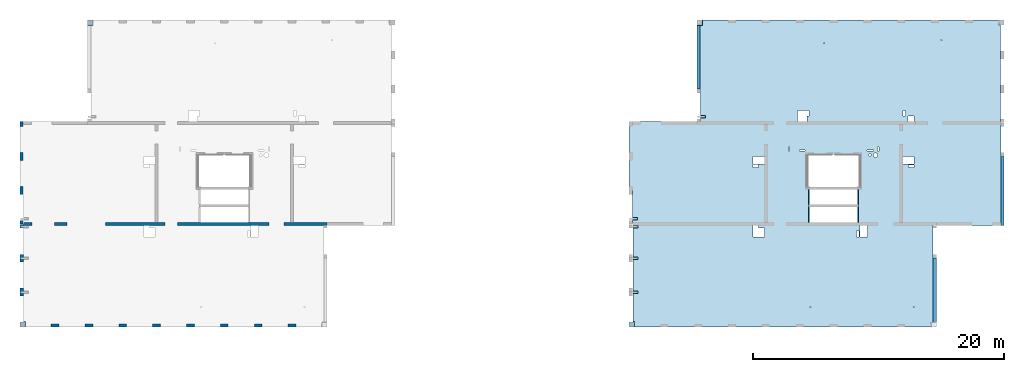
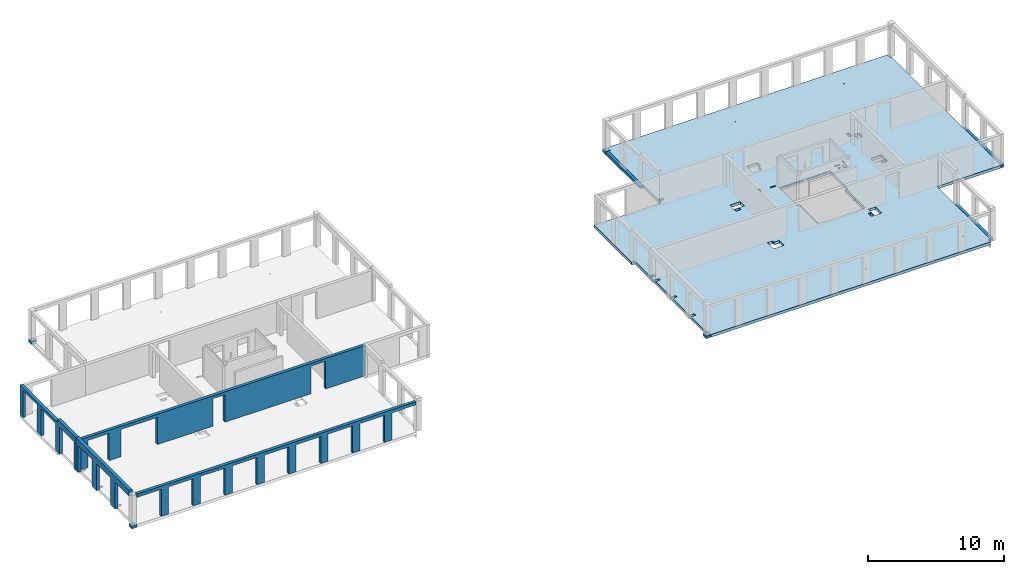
# One storey, part 2 of 11: 8 slabs, 4 walls, 55 openings.
"""IFC2X3 building model written with IfcOpenShell, lengths in millimetres."""

from ifc_helpers import new_model, entity, si_unit, converted_unit, derived_unit, direction, frame, frame_2d, origin, origin_2d_with_axis, place, context, subcontext, project, spatial, polyline, rectangle, circle, outline, extrude, material, layer, layer_set, layer_usage, type_object, element, save


model = new_model("IFC2X3")

# Units and contexts
model_context = context("Model", 3, precision=0.01, world=origin(), true_north=direction((6.12303176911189e-17, 1.0)))
body_context = subcontext(model_context, "Body", "Model", "MODEL_VIEW")
ifc_project = project(units=[si_unit("LENGTHUNIT", "METRE", prefix="MILLI"), si_unit("AREAUNIT", "SQUARE_METRE"), si_unit("VOLUMEUNIT", "CUBIC_METRE"), converted_unit("PLANEANGLEUNIT", "DEGREE", entity("IfcRatioMeasure", 0.0174532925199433), si_unit("PLANEANGLEUNIT", "RADIAN"), dimensions=[0, 0, 0, 0, 0, 0, 0]), si_unit("MASSUNIT", "GRAM", prefix="KILO"), derived_unit("MASSDENSITYUNIT", [(si_unit("MASSUNIT", "GRAM", prefix="KILO"), 1), (si_unit("LENGTHUNIT", "METRE"), -3)]), si_unit("TIMEUNIT", "SECOND"), si_unit("FREQUENCYUNIT", "HERTZ"), si_unit("THERMODYNAMICTEMPERATUREUNIT", "DEGREE_CELSIUS"), derived_unit("THERMALTRANSMITTANCEUNIT", [(si_unit("MASSUNIT", "GRAM", prefix="KILO"), 1), (si_unit("THERMODYNAMICTEMPERATUREUNIT", "KELVIN"), -1), (si_unit("TIMEUNIT", "SECOND"), -3)]), derived_unit("VOLUMETRICFLOWRATEUNIT", [(si_unit("LENGTHUNIT", "METRE"), 3), (si_unit("TIMEUNIT", "SECOND"), -1)]), si_unit("ELECTRICCURRENTUNIT", "AMPERE"), si_unit("ELECTRICVOLTAGEUNIT", "VOLT"), si_unit("POWERUNIT", "WATT"), si_unit("FORCEUNIT", "NEWTON", prefix="KILO"), si_unit("ILLUMINANCEUNIT", "LUX"), si_unit("LUMINOUSFLUXUNIT", "LUMEN"), si_unit("LUMINOUSINTENSITYUNIT", "CANDELA"), derived_unit("USERDEFINED", [(si_unit("MASSUNIT", "GRAM", prefix="KILO"), -1), (si_unit("LENGTHUNIT", "METRE"), -2), (si_unit("TIMEUNIT", "SECOND"), 3), (si_unit("LUMINOUSFLUXUNIT", "LUMEN"), 1)]), derived_unit("LINEARVELOCITYUNIT", [(si_unit("LENGTHUNIT", "METRE"), 1), (si_unit("TIMEUNIT", "SECOND"), -1)]), si_unit("PRESSUREUNIT", "PASCAL"), derived_unit("USERDEFINED", [(si_unit("LENGTHUNIT", "METRE"), -2), (si_unit("MASSUNIT", "GRAM", prefix="KILO"), 1), (si_unit("TIMEUNIT", "SECOND"), -2)])], contexts=[model_context])

# Site, building, storey
site_placement = place(None, origin())
site = spatial("IfcSite", under=ifc_project, at=site_placement, Name="Default", CompositionType="ELEMENT")
building_placement = place(site_placement, origin())
building = spatial("IfcBuilding", under=site, at=building_placement, Name="niet gebruiken", CompositionType="ELEMENT")
storey_placement = place(building_placement, frame((0.0, 0.0, 57150.0)))
storey = spatial("IfcBuildingStorey", under=building, at=storey_placement, Name="19 negentiende verdieping", CompositionType="ELEMENT", Elevation=57150.0)

# Slab, openings
ifc_material_1 = material(Name="NLRS_f2_beton ihwg")
ifc_layer_1 = layer(ifc_material_1, 250.0)
ifc_layer_set_1 = layer_set([ifc_layer_1], Name="Floor:NLRS_23.21_FL_beton ihwg d=250_gen")
ifc_layer_usage_1 = layer_usage(ifc_layer_set_1, "AXIS3", "POSITIVE", 0.0)
slab_1_placement = place(storey_placement, frame((75500.0, 28756.0, -340.0)))
slab_1 = element("IfcSlab", 1, at=slab_1_placement, inside=storey, material=ifc_layer_usage_1, Name="Floor:NLRS_23.21_FL_beton ihwg d=250_gen", ObjectType="Floor:NLRS_23.21_FL_beton ihwg d=250_gen", PredefinedType="FLOOR", context=body_context, shape_type="SweptSolid", body=[
    extrude(outline(polyline([(8995.0, 12250.0), (-14665.0, 12250.0), (-14665.0, 11840.0), (-14805.0, 11840.0), (-14805.0, 4060.0), (-14825.0, 4060.0), (-14825.0, -4150.0), (-9425.0, -4150.0), (-9425.0, -11890.0), (-9265.0, -11890.0), (-9265.0, -12250.0), (14395.0, -12250.0), (14395.0, -11820.0), (14535.0, -11820.0), (14535.0, -4040.0), (14555.0, -4040.0), (14555.0, -1350.0), (14825.0, -1350.0), (14825.0, 4150.0), (9155.0, 4150.0), (9155.0, 6750.0), (9425.0, 6750.0), (9425.0, 11820.0), (8995.0, 11820.0), (8995.0, 12250.0)])), frame((14825.0, 12250.0, 250.0), z_axis=(0.0, 0.0, -1.0), x_axis=(-1.0, 0.0, 0.0)), (0.0, 0.0, 1.0), 250.000000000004),
])
opening_1_placement = place(storey_placement, frame((75500.0, 28756.0, -340.0)))
element("IfcOpeningElement", 2, at=opening_1_placement, cuts=slab_1, ObjectType="Opening", context=body_context, shape_type="SweptSolid", body=[
    extrude(circle(Radius=37.5, at=frame_2d((-7875.0, -10650.0), x_axis=(1.0, 0.0))), frame((14825.0, 12250.0, 250.0), z_axis=(0.0, 0.0, -1.0), x_axis=(-1.0, 0.0, 0.0)), (0.0, 0.0, 1.0), 250.000000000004),
])
opening_2_placement = place(storey_placement, frame((75500.0, 28756.0, -340.0)))
element("IfcOpeningElement", 3, at=opening_2_placement, cuts=slab_1, ObjectType="Opening", context=body_context, shape_type="SweptSolid", body=[
    extrude(circle(Radius=37.5, at=frame_2d((-10075.0, 10650.0), x_axis=(1.0, 0.0))), frame((14825.0, 12250.0, 250.0), z_axis=(0.0, 0.0, -1.0), x_axis=(-1.0, 0.0, 0.0)), (0.0, 0.0, 1.0), 250.000000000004),
])
opening_3_placement = place(storey_placement, frame((75500.0, 28756.0, -340.0)))
element("IfcOpeningElement", 4, at=opening_3_placement, cuts=slab_1, ObjectType="Opening", context=body_context, shape_type="SweptSolid", body=[
    extrude(circle(Radius=37.5, at=frame_2d((-725.0, 10400.0), x_axis=(1.0, 0.0))), frame((14825.0, 12250.0, 250.0), z_axis=(0.0, 0.0, -1.0), x_axis=(-1.0, 0.0, 0.0)), (0.0, 0.0, 1.0), 250.000000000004),
])
opening_4_placement = place(storey_placement, frame((75500.0, 28756.0, -340.0)))
element("IfcOpeningElement", 5, at=opening_4_placement, cuts=slab_1, ObjectType="Opening", context=body_context, shape_type="SweptSolid", body=[
    extrude(circle(Radius=37.5, at=frame_2d((375.0, -10650.0), x_axis=(1.0, 0.0))), frame((14825.0, 12250.0, 250.0), z_axis=(0.0, 0.0, -1.0), x_axis=(-1.0, 0.0, 0.0)), (0.0, 0.0, 1.0), 250.000000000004),
])
opening_5_placement = place(slab_1_placement, origin())
element("IfcOpeningElement", 6, at=opening_5_placement, cuts=slab_1, ObjectType="Opening", context=body_context, shape_type="SweptSolid", body=[
    extrude(rectangle(XDim=109.999999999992, YDim=1220.0, at=origin_2d_with_axis()), frame((14344.9999671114, 10380.0, 210.0)), (0.0, 0.0, 1.0), 39.9999999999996),
])
opening_6_placement = place(slab_1_placement, origin())
element("IfcOpeningElement", 7, at=opening_6_placement, cuts=slab_1, ObjectType="Opening", context=body_context, shape_type="SweptSolid", body=[
    extrude(rectangle(XDim=109.999999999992, YDim=1220.0, at=origin_2d_with_axis()), frame((18254.9997832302, 10380.0, 210.0)), (0.0, 0.0, 1.0), 39.9999999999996),
])
opening_7_placement = place(slab_1_placement, origin())
element("IfcOpeningElement", 8, at=opening_7_placement, cuts=slab_1, ObjectType="Opening", context=body_context, shape_type="SweptSolid", body=[
    extrude(rectangle(XDim=109.999999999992, YDim=1220.0, at=origin_2d_with_axis()), frame((18255.0, 8960.0, 210.0)), (0.0, 0.0, 1.0), 39.9999999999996),
])
opening_8_placement = place(slab_1_placement, origin())
element("IfcOpeningElement", 9, at=opening_8_placement, cuts=slab_1, ObjectType="Opening", context=body_context, shape_type="SweptSolid", body=[
    extrude(rectangle(XDim=109.999999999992, YDim=1220.0, at=origin_2d_with_axis()), frame((14344.9997832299, 8960.0, 210.0)), (0.0, 0.0, 1.0), 39.9999999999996),
])
opening_9_placement = place(slab_1_placement, origin())
element("IfcOpeningElement", 10, at=opening_9_placement, cuts=slab_1, ObjectType="Opening", context=body_context, shape_type="SweptSolid", body=[
    extrude(rectangle(XDim=399.999999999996, YDim=199.999999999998, at=origin_2d_with_axis()), frame((5870.0, 16765.0, 220.0)), (0.0, 0.0, 1.0), 30.0000000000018),
])
opening_10_placement = place(slab_1_placement, origin())
element("IfcOpeningElement", 11, at=opening_10_placement, cuts=slab_1, ObjectType="Opening", context=body_context, shape_type="SweptSolid", body=[
    extrude(rectangle(XDim=400.000000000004, YDim=200.000000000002, at=origin_2d_with_axis()), frame((470.0, 8630.0, 220.0)), (0.0, 0.0, 1.0), 30.0000000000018),
])
opening_11_placement = place(slab_1_placement, origin())
element("IfcOpeningElement", 12, at=opening_11_placement, cuts=slab_1, ObjectType="Opening", context=body_context, shape_type="SweptSolid", body=[
    extrude(rectangle(XDim=200.000000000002, YDim=400.000000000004, at=origin_2d_with_axis()), frame((490.0, 8000.0, 220.0), z_axis=(0.0, 0.0, 1.0), x_axis=(0.0, -1.0, 0.0)), (0.0, 0.0, 1.0), 30.0000000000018),
])
opening_12_placement = place(slab_1_placement, origin())
element("IfcOpeningElement", 13, at=opening_12_placement, cuts=slab_1, ObjectType="Opening", context=body_context, shape_type="SweptSolid", body=[
    extrude(rectangle(XDim=200.000000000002, YDim=400.000000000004, at=origin_2d_with_axis()), frame((490.0, 5500.0, 220.0), z_axis=(0.0, 0.0, 1.0), x_axis=(0.0, -1.0, 0.0)), (0.0, 0.0, 1.0), 30.0000000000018),
])
opening_13_placement = place(slab_1_placement, origin())
element("IfcOpeningElement", 14, at=opening_13_placement, cuts=slab_1, ObjectType="Opening", context=body_context, shape_type="SweptSolid", body=[
    extrude(rectangle(XDim=200.000000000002, YDim=400.000000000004, at=origin_2d_with_axis()), frame((490.0, 2800.0, 220.0), z_axis=(0.0, 0.0, 1.0), x_axis=(0.0, -1.0, 0.0)), (0.0, 0.0, 1.0), 30.0000000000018),
])
opening_14_placement = place(slab_1_placement, origin())
element("IfcOpeningElement", 15, at=opening_14_placement, cuts=slab_1, ObjectType="Opening", context=body_context, shape_type="SweptSolid", body=[
    extrude(rectangle(XDim=900.000000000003, YDim=700.000000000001, at=origin_2d_with_axis()), frame((10325.0, 7550.0, 0.0), z_axis=(0.0, 0.0, 1.0), x_axis=(-1.0, 0.0, 0.0)), (0.0, 0.0, 1.0), 250.000000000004),
])
opening_15_placement = place(slab_1_placement, origin())
element("IfcOpeningElement", 16, at=opening_15_placement, cuts=slab_1, ObjectType="Opening", context=body_context, shape_type="SweptSolid", body=[
    extrude(rectangle(XDim=200.000000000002, YDim=450.000000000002, at=origin_2d_with_axis()), frame((10100.0, 8000.0, 0.0), z_axis=(0.0, 0.0, 1.0), x_axis=(0.0, -1.0, 0.0)), (0.0, 0.0, 1.0), 250.000000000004),
])
opening_16_placement = place(slab_1_placement, origin())
element("IfcOpeningElement", 17, at=opening_16_placement, cuts=slab_1, ObjectType="Opening", context=body_context, shape_type="SweptSolid", body=[
    extrude(rectangle(XDim=900.000000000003, YDim=730.000000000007, at=origin_2d_with_axis()), frame((13800.0, 16850.0, 0.0), z_axis=(0.0, 0.0, 1.0), x_axis=(0.0, 1.0, 0.0)), (0.0, 0.0, 1.0), 250.000000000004),
])
opening_17_placement = place(slab_1_placement, origin())
element("IfcOpeningElement", 18, at=opening_17_placement, cuts=slab_1, ObjectType="Opening", context=body_context, shape_type="SweptSolid", body=[
    extrude(rectangle(XDim=169.999999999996, YDim=450.000000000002, at=origin_2d_with_axis()), frame((14250.0, 17075.0, 0.0), z_axis=(0.0, 0.0, 1.0), x_axis=(-1.0, 0.0, 0.0)), (0.0, 0.0, 1.0), 250.000000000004),
])
opening_18_placement = place(slab_1_placement, origin())
element("IfcOpeningElement", 19, at=opening_18_placement, cuts=slab_1, ObjectType="Opening", context=body_context, shape_type="SweptSolid", body=[
    extrude(rectangle(XDim=900.000000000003, YDim=600.000000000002, at=origin_2d_with_axis()), frame((10325.0, 13330.0, 0.0), z_axis=(0.0, 0.0, 1.0), x_axis=(-1.0, 0.0, 0.0)), (0.0, 0.0, 1.0), 250.000000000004),
])
opening_19_placement = place(slab_1_placement, origin())
element("IfcOpeningElement", 20, at=opening_19_placement, cuts=slab_1, ObjectType="Opening", context=body_context, shape_type="SweptSolid", body=[
    extrude(rectangle(XDim=450.000000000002, YDim=500.000000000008, at=origin_2d_with_axis()), frame((22475.0, 16625.0, 0.0), z_axis=(0.0, 0.0, 1.0), x_axis=(0.0, 1.0, 0.0)), (0.0, 0.0, 1.0), 250.000000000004),
])
opening_20_placement = place(slab_1_placement, origin())
element("IfcOpeningElement", 21, at=opening_20_placement, cuts=slab_1, ObjectType="Opening", context=body_context, shape_type="SweptSolid", body=[
    extrude(rectangle(XDim=899.999999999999, YDim=600.000000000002, at=origin_2d_with_axis()), frame((18729.9818996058, 7650.0, 0.0), z_axis=(0.0, 0.0, 1.0), x_axis=(0.0, 1.0, 0.0)), (0.0, 0.0, 1.0), 250.000000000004),
])
opening_21_placement = place(slab_1_placement, origin())
element("IfcOpeningElement", 22, at=opening_21_placement, cuts=slab_1, ObjectType="Opening", context=body_context, shape_type="SweptSolid", body=[
    extrude(rectangle(XDim=900.000000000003, YDim=600.000000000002, at=origin_2d_with_axis()), frame((22275.0, 13330.0, 0.0), z_axis=(0.0, 0.0, 1.0), x_axis=(-1.0, 0.0, 0.0)), (0.0, 0.0, 1.0), 250.000000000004),
])
opening_22_placement = place(slab_1_placement, origin())
element("IfcOpeningElement", 23, at=opening_22_placement, cuts=slab_1, ObjectType="Opening", context=body_context, shape_type="SweptSolid", body=[
    extrude(rectangle(XDim=1760.00000000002, YDim=23.0000000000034, at=origin_2d_with_axis()), frame((15244.9998491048, 13751.4999999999, 180.0)), (0.0, 0.0, 1.0), 40.0000000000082),
])
opening_23_placement = place(slab_1_placement, origin())
element("IfcOpeningElement", 24, at=opening_23_placement, cuts=slab_1, ObjectType="Opening", context=body_context, shape_type="SweptSolid", body=[
    extrude(rectangle(XDim=1760.0, YDim=23.0000000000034, at=origin_2d_with_axis()), frame((17354.999849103, 13751.4999999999, 180.0)), (0.0, 0.0, 1.0), 40.0000000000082),
])
opening_24_placement = place(slab_1_placement, origin())
element("IfcOpeningElement", 25, at=opening_24_placement, cuts=slab_1, ObjectType="Opening", context=body_context, shape_type="SweptSolid", body=[
    extrude(rectangle(XDim=100.000000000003, YDim=489.999999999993, at=origin_2d_with_axis()), frame((19225.0, 14090.0, 0.0), z_axis=(0.0, 0.0, 1.0), x_axis=(0.0, -1.0, 0.0)), (0.0, 0.0, 1.0), 250.000000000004),
])
opening_25_placement = place(slab_1_placement, origin())
element("IfcOpeningElement", 26, at=opening_25_placement, cuts=slab_1, ObjectType="Opening", context=body_context, shape_type="SweptSolid", body=[
    extrude(rectangle(XDim=99.9999999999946, YDim=340.000000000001, at=origin_2d_with_axis()), frame((19865.0, 14210.0, 0.0), z_axis=(0.0, 0.0, 1.0), x_axis=(-1.0, 0.0, 0.0)), (0.0, 0.0, 1.0), 250.000000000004),
])
opening_26_placement = place(slab_1_placement, origin())
element("IfcOpeningElement", 27, at=opening_26_placement, cuts=slab_1, ObjectType="Opening", context=body_context, shape_type="SweptSolid", body=[
    extrude(rectangle(XDim=99.9999999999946, YDim=340.000000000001, at=origin_2d_with_axis()), frame((12755.0, 14210.0, 0.0), z_axis=(0.0, 0.0, 1.0), x_axis=(-1.0, 0.0, 0.0)), (0.0, 0.0, 1.0), 250.000000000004),
])
opening_27_placement = place(slab_1_placement, origin())
element("IfcOpeningElement", 28, at=opening_27_placement, cuts=slab_1, ObjectType="Opening", context=body_context, shape_type="SweptSolid", body=[
    extrude(rectangle(XDim=100.000000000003, YDim=440.000000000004, at=origin_2d_with_axis()), frame((13805.0, 14090.0, 0.0), z_axis=(0.0, 0.0, 1.0), x_axis=(0.0, -1.0, 0.0)), (0.0, 0.0, 1.0), 250.000000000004),
])
opening_28_placement = place(slab_1_placement, origin())
element("IfcOpeningElement", 29, at=opening_28_placement, cuts=slab_1, ObjectType="Opening", context=body_context, shape_type="SweptSolid", body=[
    extrude(rectangle(XDim=230.0, YDim=450.000000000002, at=origin_2d_with_axis()), frame((10100.0000865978, 12845.0002270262, 0.0), z_axis=(0.0, 0.0, 1.0), x_axis=(0.0, -1.0, 0.0)), (0.0, 0.0, 1.0), 250.000000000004),
])
opening_29_placement = place(slab_1_placement, origin())
element("IfcOpeningElement", 30, at=opening_29_placement, cuts=slab_1, ObjectType="Opening", context=body_context, shape_type="SweptSolid", body=[
    extrude(rectangle(XDim=220.000000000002, YDim=450.000000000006, at=origin_2d_with_axis()), frame((18240.0, 7425.0, 0.0)), (0.0, 0.0, 1.0), 250.000000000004),
])
opening_30_placement = place(slab_1_placement, origin())
element("IfcOpeningElement", 31, at=opening_30_placement, cuts=slab_1, ObjectType="Opening", context=body_context, shape_type="SweptSolid", body=[
    extrude(rectangle(XDim=220.000000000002, YDim=450.000000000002, at=origin_2d_with_axis()), frame((22500.0, 12840.0, 0.0), z_axis=(0.0, 0.0, 1.0), x_axis=(0.0, -1.0, 0.0)), (0.0, 0.0, 1.0), 250.000000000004),
])
opening_31_placement = place(slab_1_placement, origin())
element("IfcOpeningElement", 32, at=opening_31_placement, cuts=slab_1, ObjectType="Opening", context=body_context, shape_type="SweptSolid", body=[
    extrude(rectangle(XDim=220.000000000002, YDim=450.000000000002, at=origin_2d_with_axis()), frame((21935.0, 17075.0, 0.0), z_axis=(0.0, 0.0, 1.0), x_axis=(-1.0, 0.0, 0.0)), (0.0, 0.0, 1.0), 250.000000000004),
])
opening_32_placement = place(slab_1_placement, origin())
element("IfcOpeningElement", 33, at=opening_32_placement, cuts=slab_1, ObjectType="Opening", context=body_context, shape_type="SweptSolid", body=[
    extrude(circle(Radius=100.0, at=origin_2d_with_axis()), frame((19200.0, 13720.0, 0.0)), (0.0, 0.0, 1.0), 250.000000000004),
])
opening_33_placement = place(slab_1_placement, origin())
element("IfcOpeningElement", 34, at=opening_33_placement, cuts=slab_1, ObjectType="Opening", context=body_context, shape_type="SweptSolid", body=[
    extrude(circle(Radius=177.5, at=origin_2d_with_axis()), frame((19650.0, 13720.0, 0.0)), (0.0, 0.0, 1.0), 250.000000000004),
])
opening_34_placement = place(slab_1_placement, frame((16299.9999458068, 10378.7499999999, 250.0)))
element("IfcOpeningElement", 35, at=opening_34_placement, cuts=slab_1, Name="Floor:NLRS_23.21_FL_beton ihwg d=250_gen:2", ObjectType="Opening", context=body_context, shape_type="SweptSolid", body=[
    extrude(outline(polyline([(-1899.99983742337, -2028.75), (1899.99994580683, -2028.75), (1899.99994580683, -808.750000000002), (1999.99994580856, -808.750000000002), (1999.99994580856, -608.75), (1899.99994580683, -608.75), (1899.99994580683, 751.250000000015), (2134.99994580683, 751.250000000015), (2134.99994580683, 3361.25), (-2135.00005419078, 3361.25), (-2135.00005419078, 751.250000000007), (-1899.99983742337, 751.250000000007), (-1899.99983742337, -608.750000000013), (-2000.00005419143, -608.750000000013), (-2000.00005419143, -808.750000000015), (-1899.99983742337, -808.750000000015), (-1899.99983742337, -2028.75)])), frame((0.0, 0.0, 0.0), z_axis=(0.0, 0.0, -1.0), x_axis=(-1.0, 0.0, 0.0)), (0.0, 0.0, 1.0), 250.000000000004),
])

# Slabs
ifc_layer_usage_2 = layer_usage(ifc_layer_set_1, "AXIS3", "POSITIVE", 0.0)
slab_2_placement = place(storey_placement, origin())
element("IfcSlab", 36, at=slab_2_placement, inside=storey, material=ifc_layer_usage_2, Name="Floor:NLRS_23.21_FL_beton ihwg d=250_gen", ObjectType="Floor:NLRS_23.21_FL_beton ihwg d=250_gen", PredefinedType="FLOOR", context=body_context, shape_type="SweptSolid", body=[
    extrude(rectangle(XDim=5069.99999999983, YDim=249.999999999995, at=frame_2d((4.32009983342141e-12, -8.66151594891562e-12), x_axis=(1.0, 0.0))), frame((81025.0, 50291.0, -90.0), z_axis=(0.0, 0.0, -1.0), x_axis=(0.0, 1.0, 0.0)), (0.0, 0.0, 1.0), 250.000000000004),
])
ifc_layer_usage_3 = layer_usage(ifc_layer_set_1, "AXIS3", "POSITIVE", 0.0)
slab_3_placement = place(storey_placement, origin())
element("IfcSlab", 37, at=slab_3_placement, inside=storey, material=ifc_layer_usage_3, Name="Floor:NLRS_23.21_FL_beton ihwg d=250_gen", ObjectType="Floor:NLRS_23.21_FL_beton ihwg d=250_gen", PredefinedType="FLOOR", context=body_context, shape_type="SweptSolid", body=[
    extrude(rectangle(XDim=5140.00000000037, YDim=250.000065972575, at=frame_2d((-2.27373675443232e-12, 0.0), x_axis=(1.0, 0.0))), frame((99875.0, 31686.0, -90.0), z_axis=(0.0, 0.0, -1.0), x_axis=(0.0, 1.0, 0.0)), (0.0, 0.0, 1.0), 250.000000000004),
])
ifc_layer_usage_4 = layer_usage(ifc_layer_set_1, "AXIS3", "POSITIVE", 0.0)
slab_4_placement = place(storey_placement, origin())
element("IfcSlab", 38, at=slab_4_placement, inside=storey, material=ifc_layer_usage_4, Name="Floor:NLRS_23.21_FL_beton ihwg d=250_gen", ObjectType="Floor:NLRS_23.21_FL_beton ihwg d=250_gen", PredefinedType="FLOOR", context=body_context, shape_type="SweptSolid", body=[
    extrude(rectangle(XDim=5500.00000000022, YDim=249.999999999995, at=frame_2d((0.0, -8.66151594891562e-12), x_axis=(1.0, 0.0))), frame((105275.0, 39606.0, -90.0), z_axis=(0.0, 0.0, -1.0), x_axis=(0.0, 1.0, 0.0)), (0.0, 0.0, 1.0), 250.000000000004),
])
ifc_layer_usage_5 = layer_usage(ifc_layer_set_1, "AXIS3", "POSITIVE", 0.0)
slab_5_placement = place(storey_placement, origin())
element("IfcSlab", 39, at=slab_5_placement, inside=storey, material=ifc_layer_usage_5, Name="Floor:NLRS_23.21_FL_beton ihwg d=250_gen", ObjectType="Floor:NLRS_23.21_FL_beton ihwg d=250_gen", PredefinedType="FLOOR", context=body_context, shape_type="SweptSolid", body=[
    extrude(outline(polyline([(-280.0, -240.0), (130.0, -240.0), (130.0, 50.0), (150.0, 50.0), (150.0, 190.0), (-280.0, 190.0), (-280.0, -240.0)])), frame((75740.0, 29036.0, -90.0), z_axis=(0.0, 0.0, -1.0), x_axis=(0.0, 1.0, 0.0)), (0.0, 0.0, 1.0), 250.000000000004),
])
ifc_layer_usage_6 = layer_usage(ifc_layer_set_1, "AXIS3", "POSITIVE", 0.0)
slab_6_placement = place(storey_placement, origin())
element("IfcSlab", 40, at=slab_6_placement, inside=storey, material=ifc_layer_usage_6, Name="Floor:NLRS_23.21_FL_beton ihwg d=250_gen", ObjectType="Floor:NLRS_23.21_FL_beton ihwg d=250_gen", PredefinedType="FLOOR", context=body_context, shape_type="SweptSolid", body=[
    extrude(outline(polyline([(-280.0, -240.0), (130.0, -240.0), (130.0, 50.0), (150.0, 50.0), (150.0, 190.0), (-280.0, 190.0), (-280.0, -240.0)])), frame((27140.0, 29036.0, -90.0), z_axis=(0.0, 0.0, -1.0), x_axis=(0.0, 1.0, 0.0)), (0.0, 0.0, 1.0), 250.000000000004),
])
ifc_layer_usage_7 = layer_usage(ifc_layer_set_1, "AXIS3", "POSITIVE", 0.0)
slab_7_placement = place(storey_placement, origin())
element("IfcSlab", 41, at=slab_7_placement, inside=storey, material=ifc_layer_usage_7, Name="Floor:NLRS_23.21_FL_beton ihwg d=250_gen", ObjectType="Floor:NLRS_23.21_FL_beton ihwg d=250_gen", PredefinedType="FLOOR", context=body_context, shape_type="SweptSolid", body=[
    extrude(rectangle(XDim=430.00000000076, YDim=429.999999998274, at=frame_2d((4.33431068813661e-12, 0.0), x_axis=(1.0, 0.0))), frame((81115.0, 53041.0, -90.0), z_axis=(0.0, 0.0, -1.0), x_axis=(0.0, 1.0, 0.0)), (0.0, 0.0, 1.0), 250.000000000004),
])
ifc_layer_usage_8 = layer_usage(ifc_layer_set_1, "AXIS3", "POSITIVE", 0.0)
slab_8_placement = place(storey_placement, origin())
element("IfcSlab", 42, at=slab_8_placement, inside=storey, material=ifc_layer_usage_8, Name="Floor:NLRS_23.21_FL_beton ihwg d=250_gen", ObjectType="Floor:NLRS_23.21_FL_beton ihwg d=250_gen", PredefinedType="FLOOR", context=body_context, shape_type="SweptSolid", body=[
    extrude(rectangle(XDim=430.00000000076, YDim=429.999999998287, at=frame_2d((4.33431068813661e-12, 2.17426077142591e-12), x_axis=(1.0, 0.0))), frame((32515.0, 53041.0, -90.0), z_axis=(0.0, 0.0, -1.0), x_axis=(0.0, 1.0, 0.0)), (0.0, 0.0, 1.0), 250.000000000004),
])

# Wall, openings
ifc_layer_2 = layer(ifc_material_1, 250.0)
ifc_layer_set_2 = layer_set([ifc_layer_2], Name="Basic Wall:NLRS_22.21_WA_beton ihwg d=250_gen")
ifc_layer_usage_9 = layer_usage(ifc_layer_set_2, "AXIS2", "NEGATIVE", 125.0)
wall_type_1 = type_object("IfcWallType", Name="Basic Wall:NLRS_22.21_WA_beton ihwg d=250_gen", PredefinedType="STANDARD", material=ifc_layer_set_2)
wall_1_placement = place(storey_placement, frame((27170.0, 36981.0, -90.0)))
wall_1 = element("IfcWallStandardCase", 43, at=wall_1_placement, inside=storey, type_object=wall_type_1, material=ifc_layer_usage_9, Name="Basic Wall:NLRS_22.21_WA_beton ihwg d=250_gen", ObjectType="Basic Wall:NLRS_22.21_WA_beton ihwg d=250_gen", context=body_context, shape_type="SweptSolid", body=[
    extrude(rectangle(XDim=24230.0000000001, YDim=250.000000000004, at=frame_2d((12115.0, 0.0), x_axis=(-1.0, 0.0))), origin(), (0.0, 0.0, 1.0), 2719.99999999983),
])
opening_35_placement = place(wall_1_placement, origin())
element("IfcOpeningElement", 44, at=opening_35_placement, cuts=wall_1, Name="Basic Wall:NLRS_22.21_WA_beton ihwg d=250_gen", ObjectType="Opening", context=body_context, shape_type="SweptSolid", body=[
    extrude(rectangle(XDim=2470.0, YDim=1225.0, at=frame_2d((0.0, 4.43378667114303e-12), x_axis=(0.0, 1.0))), frame((20192.500000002, -1399.0, 1235.0), z_axis=(0.0, 1.0, 0.0), x_axis=(-1.0, 0.0, 0.0)), (0.0, 0.0, 1.0), 3048.0),
])
opening_36_placement = place(wall_1_placement, origin())
element("IfcOpeningElement", 45, at=opening_36_placement, cuts=wall_1, Name="Basic Wall:NLRS_22.21_WA_beton ihwg d=250_gen", ObjectType="Opening", context=body_context, shape_type="SweptSolid", body=[
    extrude(rectangle(XDim=2470.0, YDim=1006.0, at=frame_2d((2.1600499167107e-12, -4.43378667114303e-12), x_axis=(0.0, 1.0))), frame((11782.0, -1399.0, 1235.0), z_axis=(0.0, 1.0, 0.0), x_axis=(-1.0, 0.0, 0.0)), (0.0, 0.0, 1.0), 3048.0),
])
opening_37_placement = place(wall_1_placement, origin())
element("IfcOpeningElement", 46, at=opening_37_placement, cuts=wall_1, Name="Basic Wall:NLRS_22.21_WA_beton ihwg d=250_gen", ObjectType="Recess", context=body_context, shape_type="SweptSolid", body=[
    extrude(rectangle(XDim=55000.0, YDim=20.0000000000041, at=frame_2d((0.0, -2.16626716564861e-12), x_axis=(1.0, 0.0))), frame((10.0, -140.0, -17050.0), z_axis=(0.0, 1.0, 0.0), x_axis=(0.0, 0.0, -1.0)), (0.0, 0.0, 1.0), 124.999999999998),
])
opening_38_placement = place(wall_1_placement, origin())
element("IfcOpeningElement", 47, at=opening_38_placement, cuts=wall_1, Name="Basic Wall:NLRS_22.21_WA_beton ihwg d=250_gen", ObjectType="Opening", context=body_context, shape_type="SweptSolid", body=[
    extrude(rectangle(XDim=2440.0, YDim=3080.0, at=frame_2d((0.0, 2.1600499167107e-12), x_axis=(1.0, 0.0))), frame((5025.0, -1649.0, 1220.0), z_axis=(0.0, 1.0, 0.0), x_axis=(0.0, 0.0, 1.0)), (0.0, 0.0, 1.0), 3048.0),
])
opening_39_placement = place(wall_1_placement, origin())
element("IfcOpeningElement", 48, at=opening_39_placement, cuts=wall_1, Name="Basic Wall:NLRS_22.21_WA_beton ihwg d=250_gen", ObjectType="Opening", context=body_context, shape_type="SweptSolid", body=[
    extrude(rectangle(XDim=2440.0, YDim=1785.0, at=origin_2d_with_axis()), frame((1592.49999999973, -1649.0, 1220.0), z_axis=(0.0, 1.0, 0.0), x_axis=(0.0, 0.0, 1.0)), (0.0, 0.0, 1.0), 3048.0),
])

ifc_material_2 = material(Name="NLRS_f2_beton prefab")
ifc_layer_3 = layer(ifc_material_2, 250.0)
ifc_layer_set_3 = layer_set([ifc_layer_3], Name="Basic Wall:NLRS_21.21_WA_beton prefab d=250_gen")
ifc_layer_usage_10 = layer_usage(ifc_layer_set_3, "AXIS2", "NEGATIVE", 125.0)
wall_type_2 = type_object("IfcWallType", Name="Basic Wall:NLRS_21.21_WA_beton prefab d=250_gen", PredefinedType="STANDARD", material=ifc_layer_set_3)
wall_2_placement = place(storey_placement, frame((27025.0, 45156.0, -70.0), z_axis=(0.0, 0.0, 1.0), x_axis=(0.0, -1.0, 0.0)))
wall_2 = element("IfcWallStandardCase", 49, at=wall_2_placement, inside=storey, type_object=wall_type_2, material=ifc_layer_usage_10, Name="Basic Wall:NLRS_21.21_WA_beton prefab d=250_gen", ObjectType="Basic Wall:NLRS_21.21_WA_beton prefab d=250_gen", context=body_context, shape_type="SweptSolid", body=[
    extrude(rectangle(XDim=8189.99999999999, YDim=250.000000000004, at=frame_2d((4095.0, 0.0), x_axis=(-1.0, 0.0))), origin(), (0.0, 0.0, 1.0), 2949.99999999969),
])
opening_40_placement = place(wall_2_placement, origin())
element("IfcOpeningElement", 50, at=opening_40_placement, cuts=wall_2, Name="Basic Wall:NLRS_21.21_WA_beton prefab d=250_gen", ObjectType="Opening", context=body_context, shape_type="SweptSolid", body=[
    extrude(rectangle(XDim=2420.0, YDim=2080.0, at=frame_2d((0.0, 0.0), x_axis=(0.0, 1.0))), frame((1450.0, -1399.0, 1210.0), z_axis=(0.0, 1.0, 0.0), x_axis=(-1.0, 0.0, 0.0)), (0.0, 0.0, 1.0), 3048.0),
])
opening_41_placement = place(wall_2_placement, origin())
element("IfcOpeningElement", 51, at=opening_41_placement, cuts=wall_2, Name="Basic Wall:NLRS_21.21_WA_beton prefab d=250_gen", ObjectType="Opening", context=body_context, shape_type="SweptSolid", body=[
    extrude(rectangle(XDim=2420.0, YDim=2080.0, at=frame_2d((0.0, 0.0), x_axis=(0.0, 1.0))), frame((4150.0, -1399.0, 1210.0), z_axis=(0.0, 1.0, 0.0), x_axis=(-1.0, 0.0, 0.0)), (0.0, 0.0, 1.0), 3048.0),
])
opening_42_placement = place(wall_2_placement, origin())
element("IfcOpeningElement", 52, at=opening_42_placement, cuts=wall_2, Name="Basic Wall:NLRS_21.21_WA_beton prefab d=250_gen", ObjectType="Opening", context=body_context, shape_type="SweptSolid", body=[
    extrude(rectangle(XDim=2420.0, YDim=2080.0, at=frame_2d((0.0, 0.0), x_axis=(0.0, 1.0))), frame((6850.0, -1399.0, 1210.0), z_axis=(0.0, 1.0, 0.0), x_axis=(-1.0, 0.0, 0.0)), (0.0, 0.0, 1.0), 3048.0),
])
opening_43_placement = place(wall_2_placement, origin())
element("IfcOpeningElement", 53, at=opening_43_placement, cuts=wall_2, Name="Basic Wall:NLRS_21.21_WA_beton prefab d=250_gen", ObjectType="Opening", context=body_context, shape_type="SweptSolid", body=[
    extrude(rectangle(XDim=249.999999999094, YDim=5499.99999999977, at=frame_2d((0.0, -8.66862137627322e-12), x_axis=(0.0, 1.0))), frame((2750.0, 125.0, 2825.0), z_axis=(0.0, -1.0, 0.0), x_axis=(-1.0, 0.0, 0.0)), (0.0, 0.0, 1.0), 250.0),
])

ifc_layer_4 = layer(ifc_material_1, 250.0)
ifc_layer_set_4 = layer_set([ifc_layer_4], Name="Basic Wall:NLRS_21.21_WA_beton ihwg d=250_gen")
ifc_layer_usage_11 = layer_usage(ifc_layer_set_4, "AXIS2", "NEGATIVE", 125.0)
wall_type_3 = type_object("IfcWallType", Name="Basic Wall:NLRS_21.21_WA_beton ihwg d=250_gen", PredefinedType="STANDARD", material=ifc_layer_set_4)
wall_3_placement = place(storey_placement, frame((27330.0, 28881.0, -90.0)))
wall_3 = element("IfcWallStandardCase", 54, at=wall_3_placement, inside=storey, type_object=wall_type_3, material=ifc_layer_usage_11, Name="Basic Wall:NLRS_21.21_WA_beton ihwg d=250_gen", ObjectType="Basic Wall:NLRS_21.21_WA_beton ihwg d=250_gen", context=body_context, shape_type="SweptSolid", body=[
    extrude(rectangle(XDim=23640.0000000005, YDim=250.000000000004, at=frame_2d((11820.0000000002, -8.66862137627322e-13), x_axis=(-1.0, 0.0))), origin(), (0.0, 0.0, 1.0), 2720.00000000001),
])
opening_44_placement = place(wall_3_placement, origin())
element("IfcOpeningElement", 55, at=opening_44_placement, cuts=wall_3, Name="Basic Wall:NLRS_21.21_WA_beton ihwg d=250_gen", ObjectType="Opening", context=body_context, shape_type="SweptSolid", body=[
    extrude(rectangle(XDim=2440.0, YDim=2080.0, at=frame_2d((0.0, 0.0), x_axis=(0.0, 1.0))), frame((22620.0, -1399.0, 1220.0), z_axis=(0.0, 1.0, 0.0), x_axis=(-1.0, 0.0, 0.0)), (0.0, 0.0, 1.0), 3048.0),
])
opening_45_placement = place(wall_3_placement, origin())
element("IfcOpeningElement", 56, at=opening_45_placement, cuts=wall_3, Name="Basic Wall:NLRS_21.21_WA_beton ihwg d=250_gen", ObjectType="Opening", context=body_context, shape_type="SweptSolid", body=[
    extrude(rectangle(XDim=2440.0, YDim=2080.0, at=frame_2d((0.0, 0.0), x_axis=(0.0, 1.0))), frame((19920.0, -1399.0, 1220.0), z_axis=(0.0, 1.0, 0.0), x_axis=(-1.0, 0.0, 0.0)), (0.0, 0.0, 1.0), 3048.0),
])
opening_46_placement = place(wall_3_placement, origin())
element("IfcOpeningElement", 57, at=opening_46_placement, cuts=wall_3, Name="Basic Wall:NLRS_21.21_WA_beton ihwg d=250_gen", ObjectType="Opening", context=body_context, shape_type="SweptSolid", body=[
    extrude(rectangle(XDim=2440.0, YDim=2080.0, at=frame_2d((0.0, 0.0), x_axis=(0.0, 1.0))), frame((17220.0, -1399.0, 1220.0), z_axis=(0.0, 1.0, 0.0), x_axis=(-1.0, 0.0, 0.0)), (0.0, 0.0, 1.0), 3048.0),
])
opening_47_placement = place(wall_3_placement, origin())
element("IfcOpeningElement", 58, at=opening_47_placement, cuts=wall_3, Name="Basic Wall:NLRS_21.21_WA_beton ihwg d=250_gen", ObjectType="Opening", context=body_context, shape_type="SweptSolid", body=[
    extrude(rectangle(XDim=2440.0, YDim=2080.0, at=frame_2d((0.0, 0.0), x_axis=(0.0, 1.0))), frame((14520.0, -1399.0, 1220.0), z_axis=(0.0, 1.0, 0.0), x_axis=(-1.0, 0.0, 0.0)), (0.0, 0.0, 1.0), 3048.0),
])
opening_48_placement = place(wall_3_placement, origin())
element("IfcOpeningElement", 59, at=opening_48_placement, cuts=wall_3, Name="Basic Wall:NLRS_21.21_WA_beton ihwg d=250_gen", ObjectType="Opening", context=body_context, shape_type="SweptSolid", body=[
    extrude(rectangle(XDim=2440.0, YDim=2080.0, at=frame_2d((-4.32009983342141e-12, 0.0), x_axis=(0.0, 1.0))), frame((11820.0, -1399.0, 1220.0), z_axis=(0.0, 1.0, 0.0), x_axis=(-1.0, 0.0, 0.0)), (0.0, 0.0, 1.0), 3048.0),
])
opening_49_placement = place(wall_3_placement, origin())
element("IfcOpeningElement", 60, at=opening_49_placement, cuts=wall_3, Name="Basic Wall:NLRS_21.21_WA_beton ihwg d=250_gen", ObjectType="Opening", context=body_context, shape_type="SweptSolid", body=[
    extrude(rectangle(XDim=2440.0, YDim=2080.0, at=frame_2d((-2.1600499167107e-12, 0.0), x_axis=(0.0, 1.0))), frame((9120.0, -1399.0, 1220.0), z_axis=(0.0, 1.0, 0.0), x_axis=(-1.0, 0.0, 0.0)), (0.0, 0.0, 1.0), 3048.0),
])
opening_50_placement = place(wall_3_placement, origin())
element("IfcOpeningElement", 61, at=opening_50_placement, cuts=wall_3, Name="Basic Wall:NLRS_21.21_WA_beton ihwg d=250_gen", ObjectType="Opening", context=body_context, shape_type="SweptSolid", body=[
    extrude(rectangle(XDim=2440.0, YDim=2080.0, at=frame_2d((2.1600499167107e-12, 0.0), x_axis=(0.0, 1.0))), frame((6420.0, -1399.0, 1220.0), z_axis=(0.0, 1.0, 0.0), x_axis=(-1.0, 0.0, 0.0)), (0.0, 0.0, 1.0), 3048.0),
])
opening_51_placement = place(wall_3_placement, origin())
element("IfcOpeningElement", 62, at=opening_51_placement, cuts=wall_3, Name="Basic Wall:NLRS_21.21_WA_beton ihwg d=250_gen", ObjectType="Opening", context=body_context, shape_type="SweptSolid", body=[
    extrude(rectangle(XDim=2440.0, YDim=2080.0, at=frame_2d((2.1600499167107e-12, 0.0), x_axis=(0.0, 1.0))), frame((3720.0, -1399.0, 1220.0), z_axis=(0.0, 1.0, 0.0), x_axis=(-1.0, 0.0, 0.0)), (0.0, 0.0, 1.0), 3048.0),
])
opening_52_placement = place(wall_3_placement, origin())
element("IfcOpeningElement", 63, at=opening_52_placement, cuts=wall_3, Name="Basic Wall:NLRS_21.21_WA_beton ihwg d=250_gen", ObjectType="Opening", context=body_context, shape_type="SweptSolid", body=[
    extrude(rectangle(XDim=2440.0, YDim=2080.0, at=frame_2d((-2.1600499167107e-12, 0.0), x_axis=(0.0, 1.0))), frame((1020.0, -1399.0, 1220.0), z_axis=(0.0, 1.0, 0.0), x_axis=(-1.0, 0.0, 0.0)), (0.0, 0.0, 1.0), 3048.0),
])

ifc_layer_5 = layer(ifc_material_2, 270.0)
ifc_layer_set_5 = layer_set([ifc_layer_5], Name="Basic Wall:NLRS_21.21_WA_beton prefab d=270_gen")
ifc_layer_usage_12 = layer_usage(ifc_layer_set_5, "AXIS2", "NEGATIVE", 135.0)
wall_type_4 = type_object("IfcWallType", Name="Basic Wall:NLRS_21.21_WA_beton prefab d=270_gen", PredefinedType="STANDARD", material=ifc_layer_set_5)
wall_4_placement = place(storey_placement, frame((27035.0, 36946.0, -70.0), z_axis=(0.0, 0.0, 1.0), x_axis=(0.0, -1.0, 0.0)))
wall_4 = element("IfcWallStandardCase", 64, at=wall_4_placement, inside=storey, type_object=wall_type_4, material=ifc_layer_usage_12, Name="Basic Wall:NLRS_21.21_WA_beton prefab d=270_gen", ObjectType="Basic Wall:NLRS_21.21_WA_beton prefab d=270_gen", context=body_context, shape_type="SweptSolid", body=[
    extrude(rectangle(XDim=7780.00000000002, YDim=269.999999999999, at=frame_2d((3890.00000000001, 0.0), x_axis=(-1.0, 0.0))), origin(), (0.0, 0.0, 1.0), 2949.99999999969),
])
opening_53_placement = place(wall_4_placement, origin())
element("IfcOpeningElement", 65, at=opening_53_placement, cuts=wall_4, Name="Basic Wall:NLRS_21.21_WA_beton prefab d=270_gen", ObjectType="Opening", context=body_context, shape_type="SweptSolid", body=[
    extrude(rectangle(XDim=2420.0, YDim=2080.0, at=frame_2d((-2.1600499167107e-12, 0.0), x_axis=(0.0, 1.0))), frame((1340.0, -1389.0, 1210.0), z_axis=(0.0, 1.0, 0.0), x_axis=(-1.0, 0.0, 0.0)), (0.0, 0.0, 1.0), 3048.0),
])
opening_54_placement = place(wall_4_placement, origin())
element("IfcOpeningElement", 66, at=opening_54_placement, cuts=wall_4, Name="Basic Wall:NLRS_21.21_WA_beton prefab d=270_gen", ObjectType="Opening", context=body_context, shape_type="SweptSolid", body=[
    extrude(rectangle(XDim=2420.0, YDim=2080.0, at=frame_2d((2.1600499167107e-12, 0.0), x_axis=(0.0, 1.0))), frame((4040.0, -1389.0, 1210.0), z_axis=(0.0, 1.0, 0.0), x_axis=(-1.0, 0.0, 0.0)), (0.0, 0.0, 1.0), 3048.0),
])
opening_55_placement = place(wall_4_placement, origin())
element("IfcOpeningElement", 67, at=opening_55_placement, cuts=wall_4, Name="Basic Wall:NLRS_21.21_WA_beton prefab d=270_gen", ObjectType="Opening", context=body_context, shape_type="SweptSolid", body=[
    extrude(rectangle(XDim=2420.0, YDim=2080.0, at=frame_2d((2.1600499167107e-12, 0.0), x_axis=(0.0, 1.0))), frame((6740.0, -1389.0, 1210.0), z_axis=(0.0, 1.0, 0.0), x_axis=(-1.0, 0.0, 0.0)), (0.0, 0.0, 1.0), 3048.0),
])

save(model, "model.ifc")
